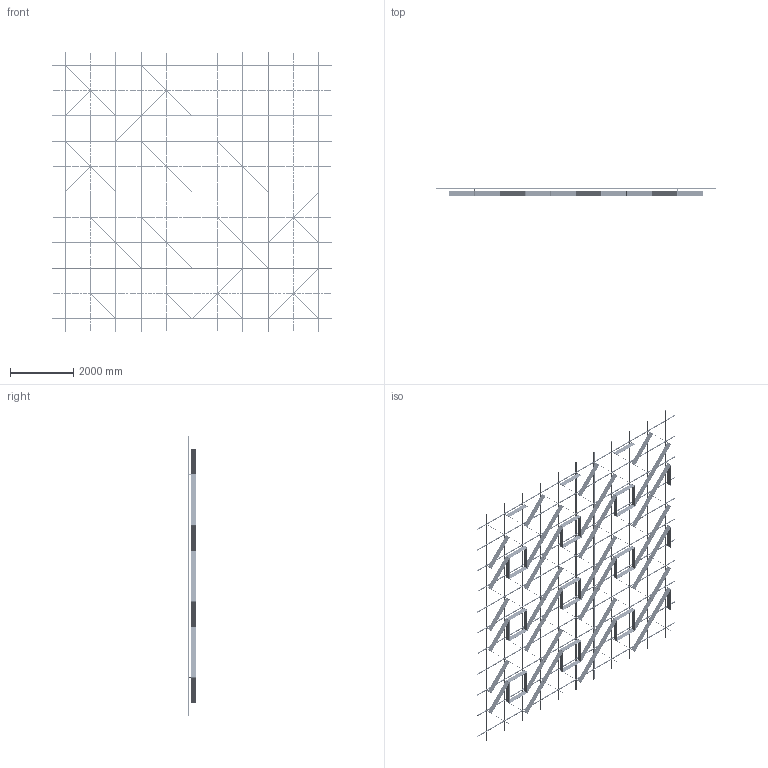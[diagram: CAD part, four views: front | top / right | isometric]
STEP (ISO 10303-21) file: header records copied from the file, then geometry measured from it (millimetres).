
FILE_DESCRIPTION (( 'STEP AP214' ), '1' );
FILE_NAME ('OPT_Var17.STEP', '2024-04-26T07:00:10', ( '' ), ( '' ), 'SwSTEP 2.0', 'SolidWorks 2020', '' );
FILE_SCHEMA (( 'AUTOMOTIVE_DESIGN' ));
Length unit declared in the file: millimetre
Products named in the file (5): SS.SEMA.2400 - Ñèìà-ïðîôèëü — îáðåçàí 1600; Varp17; Ñèñòåìà â çîíå 8000õ8000; SS.SEMA.2400 - Ñèìà-ïðîôèëü; OPT_Var17
Assembly tree (90 placements, depth 3):
  OPT_Var17
    Ñèñòåìà â çîíå 8000õ8000
      SS.SEMA.2400 - Ñèìà-ïðîôèëü  x66
      SS.SEMA.2400 - Ñèìà-ïðîôèëü — îáðåçàí 1600  x22
    Varp17
Bounding box: 8800 x 253 x 8800 mm (x, y, z)
Volume: 172719632 mm3; surface area: 73555277 mm2
Topology: 637 solids, 637 shells, 19494 faces, 53252 edges, 35032 vertices
Faces by surface type: cylinder 12690, plane 6804
Entity records: 90906 total; most frequent: CARTESIAN_POINT 27356, ORIENTED_EDGE 13352, DIRECTION 8342, EDGE_CURVE 6676, VERTEX_POINT 4440, B_SPLINE_CURVE_WITH_KNOTS 4024, AXIS2_PLACEMENT_3D 3922, EDGE_LOOP 3500
